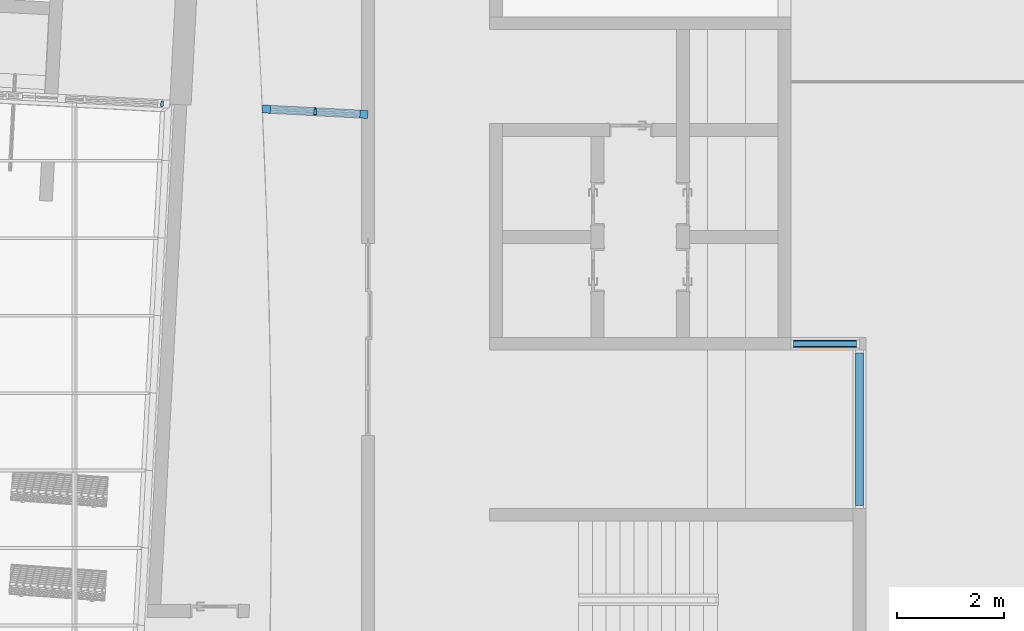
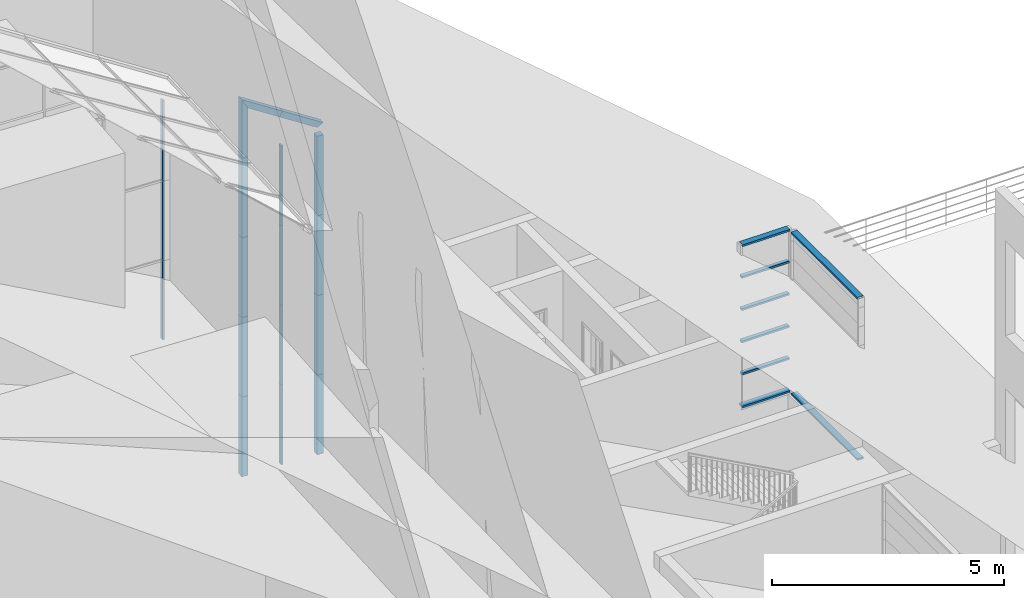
# One storey, part 22 of 82: 26 members, 4 elements without a shape of their own.
"""IFC2X3 building model written with IfcOpenShell, lengths in millimetres."""

from ifc_helpers import new_model, entity, si_unit, converted_unit, derived_unit, direction, frame, frame_2d, origin, origin_2d_with_axis, place, context, subcontext, project, spatial, rectangle, extrude, clip, halfspace, source, transform, mapped, material, type_object, type_shapes, element, aggregate, save


model = new_model("IFC2X3")

# Units and contexts
model_context = context("Model", 3, precision=0.01, world=origin(), true_north=direction((6.12303176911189e-17, 1.0)))
body_context = subcontext(model_context, "Body", "Model", "MODEL_VIEW")
ifc_project = project(units=[si_unit("LENGTHUNIT", "METRE", prefix="MILLI"), si_unit("AREAUNIT", "SQUARE_METRE"), si_unit("VOLUMEUNIT", "CUBIC_METRE"), converted_unit("PLANEANGLEUNIT", "DEGREE", entity("IfcRatioMeasure", 0.0174532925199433), si_unit("PLANEANGLEUNIT", "RADIAN"), dimensions=[0, 0, 0, 0, 0, 0, 0]), si_unit("MASSUNIT", "GRAM", prefix="KILO"), derived_unit("MASSDENSITYUNIT", [(si_unit("MASSUNIT", "GRAM", prefix="KILO"), 1), (si_unit("LENGTHUNIT", "METRE"), -3)]), si_unit("TIMEUNIT", "SECOND"), si_unit("FREQUENCYUNIT", "HERTZ"), si_unit("THERMODYNAMICTEMPERATUREUNIT", "DEGREE_CELSIUS"), derived_unit("THERMALTRANSMITTANCEUNIT", [(si_unit("MASSUNIT", "GRAM", prefix="KILO"), 1), (si_unit("THERMODYNAMICTEMPERATUREUNIT", "KELVIN"), -1), (si_unit("TIMEUNIT", "SECOND"), -3)]), derived_unit("VOLUMETRICFLOWRATEUNIT", [(si_unit("LENGTHUNIT", "METRE"), 3), (si_unit("TIMEUNIT", "SECOND"), -1)]), si_unit("ELECTRICCURRENTUNIT", "AMPERE"), si_unit("ELECTRICVOLTAGEUNIT", "VOLT"), si_unit("POWERUNIT", "WATT"), si_unit("FORCEUNIT", "NEWTON", prefix="KILO"), si_unit("ILLUMINANCEUNIT", "LUX"), si_unit("LUMINOUSFLUXUNIT", "LUMEN"), si_unit("LUMINOUSINTENSITYUNIT", "CANDELA"), derived_unit("USERDEFINED", [(si_unit("MASSUNIT", "GRAM", prefix="KILO"), -1), (si_unit("LENGTHUNIT", "METRE"), -2), (si_unit("TIMEUNIT", "SECOND"), 3), (si_unit("LUMINOUSFLUXUNIT", "LUMEN"), 1)]), derived_unit("LINEARVELOCITYUNIT", [(si_unit("LENGTHUNIT", "METRE"), 1), (si_unit("TIMEUNIT", "SECOND"), -1)]), si_unit("PRESSUREUNIT", "PASCAL"), derived_unit("USERDEFINED", [(si_unit("LENGTHUNIT", "METRE"), -2), (si_unit("MASSUNIT", "GRAM", prefix="KILO"), 1), (si_unit("TIMEUNIT", "SECOND"), -2)])], contexts=[model_context])

# Site, building, storey
site_placement = place(None, origin())
site = spatial("IfcSite", under=ifc_project, at=site_placement, Name="表面", CompositionType="ELEMENT")
building_placement = place(site_placement, origin())
building = spatial("IfcBuilding", under=site, at=building_placement, CompositionType="ELEMENT")
storey_placement = place(building_placement, origin())
storey = spatial("IfcBuildingStorey", under=building, at=storey_placement, Name="1F", CompositionType="ELEMENT", Elevation=0.0)

# Curtain wall, members
curtain_wall_type_1 = type_object("IfcCurtainWallType", Name="幕墙系统:1450 x 2100mm", PredefinedType="NOTDEFINED")
curtain_wall_1_placement = place(storey_placement, origin())
curtain_wall_1 = element("IfcCurtainWall", 1, at=curtain_wall_1_placement, inside=storey, type_object=curtain_wall_type_1, Name="幕墙系统:1450 x 2100mm", ObjectType="幕墙系统:1450 x 2100mm")
ifc_material_1 = material(Name="金属 - 铝")
member_type_1 = type_object("IfcMemberType", Name="50 x 100mm", PredefinedType="MEMBER")
shared_shape_1 = source(origin(), body_context, "Body", "SweptSolid", [
    extrude(rectangle(XDim=100.0, YDim=50.0, at=origin_2d_with_axis()), frame((0.0, 0.0, -2100.0), z_axis=(0.0, 0.0, 1.0), x_axis=(0.0, -1.0, 0.0)), (0.0, 0.0, 1.0), 2100.0),
])
type_shapes(member_type_1, [shared_shape_1])
member_1_placement = place(storey_placement, frame((-15417.0098474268, 2027.38819614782, 2100.0), z_axis=(0.0, 0.0, 1.0), x_axis=(0.998629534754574, -0.0523359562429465, 0.0)))
member_1 = element("IfcMember", 2, at=member_1_placement, type_object=member_type_1, material=ifc_material_1, Name="矩形竖梃:50 x 100mm", ObjectType="50 x 100mm", context=body_context, shape_type="MappedRepresentation", body=[
    mapped(shared_shape_1, transform((0.0, 0.0, 0.0), scale=1.0)),
])
member_type_2 = type_object("IfcMemberType", Name="50 x 100mm", PredefinedType="MEMBER")
shared_shape_2 = source(origin(), body_context, "Body", "SweptSolid", [
    extrude(rectangle(XDim=100.0, YDim=50.0, at=origin_2d_with_axis()), frame((0.0, 0.0, -2100.0), z_axis=(0.0, 0.0, 1.0), x_axis=(0.0, -1.0, 0.0)), (0.0, 0.0, 1.0), 2100.0),
])
type_shapes(member_type_2, [shared_shape_2])
member_2_placement = place(storey_placement, frame((-15417.0098474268, 2027.38819614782, 4200.0), z_axis=(0.0, 0.0, 1.0), x_axis=(0.998629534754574, -0.0523359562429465, 0.0)))
member_2 = element("IfcMember", 3, at=member_2_placement, type_object=member_type_2, material=ifc_material_1, Name="矩形竖梃:50 x 100mm", ObjectType="50 x 100mm", context=body_context, shape_type="MappedRepresentation", body=[
    mapped(shared_shape_2, transform((0.0, 0.0, 0.0), scale=1.0)),
])
placement_1 = place(building_placement, frame((0.0, 0.0, 3000.0)))
member_3_placement = place(placement_1, frame((-15417.0098474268, 2027.38819614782, 3300.0), z_axis=(0.0, 0.0, 1.0), x_axis=(0.998629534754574, -0.0523359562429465, 0.0)))
member_3 = element("IfcMember", 4, at=member_3_placement, type_object=member_type_2, material=ifc_material_1, Name="矩形竖梃:50 x 100mm", ObjectType="50 x 100mm", context=body_context, shape_type="MappedRepresentation", body=[
    mapped(shared_shape_2, transform((0.0, 0.0, 0.0), scale=1.0)),
])
placement_2 = place(building_placement, frame((0.0, 0.0, 6000.0)))
member_4_placement = place(placement_2, frame((-15417.0098474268, 2027.38819614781, 2400.0), z_axis=(0.0, 0.0, 1.0), x_axis=(0.998629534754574, -0.0523359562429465, 0.0)))
member_4 = element("IfcMember", 5, at=member_4_placement, type_object=member_type_2, material=ifc_material_1, Name="矩形竖梃:50 x 100mm", ObjectType="50 x 100mm", context=body_context, shape_type="MappedRepresentation", body=[
    mapped(shared_shape_2, transform((0.0, 0.0, 0.0), scale=1.0)),
])

curtain_wall_2_placement = place(storey_placement, origin())
curtain_wall_2 = element("IfcCurtainWall", 6, at=curtain_wall_2_placement, inside=storey, type_object=curtain_wall_type_1, Name="幕墙系统:1450 x 2100mm", ObjectType="幕墙系统:1450 x 2100mm")
member_5_placement = place(placement_1, frame((-18282.1979715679, 2177.54634296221, 3300.0), z_axis=(0.0, 0.0, 1.0), x_axis=(0.998629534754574, -0.0523359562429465, 0.0)))
member_5 = element("IfcMember", 7, at=member_5_placement, type_object=member_type_2, material=ifc_material_1, Name="矩形竖梃:50 x 100mm", ObjectType="50 x 100mm", context=body_context, shape_type="MappedRepresentation", body=[
    mapped(shared_shape_2, transform((0.0, 0.0, 0.0), scale=1.0)),
])
member_6_placement = place(placement_2, frame((-18282.1979715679, 2177.5463429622, 2400.0), z_axis=(0.0, 0.0, 1.0), x_axis=(0.998629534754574, -0.0523359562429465, 0.0)))
member_6 = element("IfcMember", 8, at=member_6_placement, type_object=member_type_2, material=ifc_material_1, Name="矩形竖梃:50 x 100mm", ObjectType="50 x 100mm", context=body_context, shape_type="MappedRepresentation", body=[
    mapped(shared_shape_2, transform((0.0, 0.0, 0.0), scale=1.0)),
])
member_7_placement = place(placement_2, frame((-18282.1979715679, 2177.5463429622, 4500.0), z_axis=(0.0, 0.0, 1.0), x_axis=(0.998629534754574, -0.0523359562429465, 0.0)))
member_7 = element("IfcMember", 9, at=member_7_placement, type_object=member_type_2, material=ifc_material_1, Name="矩形竖梃:50 x 100mm", ObjectType="50 x 100mm", context=body_context, shape_type="MappedRepresentation", body=[
    mapped(shared_shape_2, transform((0.0, 0.0, 0.0), scale=1.0)),
])
aggregate(curtain_wall_2, [member_5, member_6, member_7])

# Member
ifc_material_2 = material(Name="木质 - 木材")
member_type_3 = type_object("IfcMemberType", Name="200 x 150mm", PredefinedType="MEMBER")
shared_shape_3 = source(origin(), body_context, "Body", "Clipping", [
    clip(extrude(rectangle(XDim=150.0, YDim=150.0, at=frame_2d((-7.105427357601e-15, 0.0), x_axis=(1.0, 0.0))), frame((-75.0, 0.0, -1164.71463187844), z_axis=(0.0, 0.0, 1.0), x_axis=(0.0, -1.0, 0.0)), (0.0, 0.0, 1.0), 1164.71463187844), halfspace(frame((0.0, -304.8, 0.0), z_axis=(-0.874470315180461, 0.0, 0.485079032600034), x_axis=(-0.485079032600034, 0.0, -0.874470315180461)), False)),
])
type_shapes(member_type_3, [shared_shape_3])
placement_3 = place(building_placement, frame((0.0, 0.0, 9000.0)))
member_8_placement = place(placement_3, frame((-16403.7697822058, 2079.10209301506, 946.409923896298), z_axis=(-0.847211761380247, 0.0444004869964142, 0.529396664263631), x_axis=(0.528671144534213, -0.0277064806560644, 0.848374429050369)))
member_8 = element("IfcMember", 10, at=member_8_placement, type_object=member_type_3, material=ifc_material_2, Name="矩形竖梃:200 x 150mm", ObjectType="200 x 150mm", context=body_context, shape_type="MappedRepresentation", body=[
    mapped(shared_shape_3, transform((0.0, 0.0, 0.0), scale=1.0)),
])

member_type_4 = type_object("IfcMemberType", Name="200 x 150mm", PredefinedType="MEMBER")
shared_shape_4 = source(origin(), body_context, "Body", "SweptSolid", [
    extrude(rectangle(XDim=150.0, YDim=150.0, at=origin_2d_with_axis()), frame((-75.0, 0.0, -2100.0), z_axis=(0.0, 0.0, 1.0), x_axis=(0.0, -1.0, 0.0)), (0.0, 0.0, 1.0), 2100.0),
])
type_shapes(member_type_4, [shared_shape_4])
member_9_placement = place(storey_placement, frame((-16403.7697822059, 2079.10209301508, 0.0), z_axis=(0.0, 0.0, -1.0), x_axis=(-0.998629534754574, 0.0523359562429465, 0.0)))
member_9 = element("IfcMember", 11, at=member_9_placement, type_object=member_type_4, material=ifc_material_2, Name="矩形竖梃:200 x 150mm", ObjectType="200 x 150mm", context=body_context, shape_type="MappedRepresentation", body=[
    mapped(shared_shape_4, transform((0.0, 0.0, 0.0), scale=1.0)),
])

member_type_5 = type_object("IfcMemberType", Name="200 x 150mm", PredefinedType="MEMBER")
shared_shape_5 = source(origin(), body_context, "Body", "Clipping", [
    clip(extrude(rectangle(XDim=150.0, YDim=150.0, at=frame_2d((0.0, -6.3948846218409e-14), x_axis=(1.0, 0.0))), frame((-75.0, 0.0, -1164.71463187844), z_axis=(0.0, 0.0, 1.0), x_axis=(0.0, -1.0, 0.0)), (0.0, 0.0, 1.0), 1164.71463187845), halfspace(frame((0.0, -304.8, -1164.71463187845), z_axis=(-0.485079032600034, 0.0, -0.874470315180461), x_axis=(-0.874470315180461, 0.0, 0.485079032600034)), False)),
])
type_shapes(member_type_5, [shared_shape_5])
member_10_placement = place(placement_2, frame((-15417.0098474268, 2027.38819614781, 3329.81388296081), z_axis=(-0.847211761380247, 0.0444004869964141, 0.529396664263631), x_axis=(0.528671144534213, -0.0277064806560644, 0.848374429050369)))
member_10 = element("IfcMember", 12, at=member_10_placement, type_object=member_type_5, material=ifc_material_2, Name="矩形竖梃:200 x 150mm", ObjectType="200 x 150mm", context=body_context, shape_type="MappedRepresentation", body=[
    mapped(shared_shape_5, transform((0.0, 0.0, 0.0), scale=1.0)),
])

member_type_6 = type_object("IfcMemberType", Name="200 x 150mm", PredefinedType="MEMBER")
shared_shape_6 = source(origin(), body_context, "Body", "SweptSolid", [
    extrude(rectangle(XDim=150.0, YDim=150.0, at=origin_2d_with_axis()), frame((-75.0, 0.0, -2100.0), z_axis=(0.0, 0.0, 1.0), x_axis=(0.0, -1.0, 0.0)), (0.0, 0.0, 1.0), 2100.0),
])
type_shapes(member_type_6, [shared_shape_6])
member_11_placement = place(storey_placement, frame((-16403.7697822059, 2079.10209301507, 2100.0), z_axis=(0.0, 0.0, -1.0), x_axis=(-0.998629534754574, 0.0523359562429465, 0.0)))
member_11 = element("IfcMember", 13, at=member_11_placement, type_object=member_type_6, material=ifc_material_2, Name="矩形竖梃:200 x 150mm", ObjectType="200 x 150mm", context=body_context, shape_type="MappedRepresentation", body=[
    mapped(shared_shape_6, transform((0.0, 0.0, 0.0), scale=1.0)),
])

member_12_placement = place(placement_1, frame((-16403.7697822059, 2079.10209301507, 1200.0), z_axis=(0.0, 0.0, -1.0), x_axis=(-0.998629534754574, 0.0523359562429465, 0.0)))
member_12 = element("IfcMember", 14, at=member_12_placement, type_object=member_type_6, material=ifc_material_2, Name="矩形竖梃:200 x 150mm", ObjectType="200 x 150mm", context=body_context, shape_type="MappedRepresentation", body=[
    mapped(shared_shape_6, transform((0.0, 0.0, 0.0), scale=1.0)),
])

member_13_placement = place(placement_2, frame((-16403.7697822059, 2079.10209301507, 300.0), z_axis=(0.0, 0.0, -1.0), x_axis=(-0.998629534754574, 0.0523359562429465, 0.0)))
member_13 = element("IfcMember", 15, at=member_13_placement, type_object=member_type_6, material=ifc_material_2, Name="矩形竖梃:200 x 150mm", ObjectType="200 x 150mm", context=body_context, shape_type="MappedRepresentation", body=[
    mapped(shared_shape_6, transform((0.0, 0.0, 0.0), scale=1.0)),
])

member_type_7 = type_object("IfcMemberType", Name="200 x 150mm", PredefinedType="MEMBER")
shared_shape_7 = source(origin(), body_context, "Body", "Clipping", [
    clip(extrude(rectangle(XDim=150.0, YDim=150.0, at=origin_2d_with_axis()), frame((-75.0, 0.0, -1546.40992389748), z_axis=(0.0, 0.0, 1.0), x_axis=(0.0, -1.0, 0.0)), (0.0, 0.0, 1.0), 1546.40992389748), halfspace(frame((0.0, -304.8, -1546.40992389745), z_axis=(-0.874470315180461, 0.0, -0.485079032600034), x_axis=(-0.485079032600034, 0.0, 0.874470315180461)), False)),
])
type_shapes(member_type_7, [shared_shape_7])
member_14_placement = place(placement_2, frame((-16403.7697822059, 2079.10209301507, 2400.0), z_axis=(0.0, 0.0, -1.0), x_axis=(-0.998629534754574, 0.0523359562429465, 0.0)))
member_14 = element("IfcMember", 16, at=member_14_placement, type_object=member_type_7, material=ifc_material_2, Name="矩形竖梃:200 x 150mm", ObjectType="200 x 150mm", context=body_context, shape_type="MappedRepresentation", body=[
    mapped(shared_shape_7, transform((0.0, 0.0, 0.0), scale=1.0)),
])

member_type_8 = type_object("IfcMemberType", Name="200 x 150mm", PredefinedType="MEMBER")
shared_shape_8 = source(origin(), body_context, "Body", "SweptSolid", [
    extrude(rectangle(XDim=150.0, YDim=150.0, at=origin_2d_with_axis()), frame((-75.0, 0.0, -2100.0), z_axis=(0.0, 0.0, 1.0), x_axis=(0.0, -1.0, 0.0)), (0.0, 0.0, 1.0), 2100.0),
])
type_shapes(member_type_8, [shared_shape_8])
member_15_placement = place(storey_placement, frame((-14430.2499126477, 1975.67429928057, 2100.0), z_axis=(0.0, 0.0, 1.0), x_axis=(0.998629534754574, -0.0523359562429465, 0.0)))
member_15 = element("IfcMember", 17, at=member_15_placement, type_object=member_type_8, material=ifc_material_2, Name="矩形竖梃:200 x 150mm", ObjectType="200 x 150mm", context=body_context, shape_type="MappedRepresentation", body=[
    mapped(shared_shape_8, transform((0.0, 0.0, 0.0), scale=1.0)),
])

member_type_9 = type_object("IfcMemberType", Name="200 x 150mm", PredefinedType="MEMBER")
shared_shape_9 = source(origin(), body_context, "Body", "SweptSolid", [
    extrude(rectangle(XDim=150.0, YDim=150.0, at=origin_2d_with_axis()), frame((-75.0, 0.0, -2100.0), z_axis=(0.0, 0.0, 1.0), x_axis=(0.0, -1.0, 0.0)), (0.0, 0.0, 1.0), 2100.0),
])
type_shapes(member_type_9, [shared_shape_9])
member_16_placement = place(storey_placement, frame((-14430.2499126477, 1975.67429928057, 4200.0), z_axis=(0.0, 0.0, 1.0), x_axis=(0.998629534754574, -0.0523359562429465, 0.0)))
member_16 = element("IfcMember", 18, at=member_16_placement, type_object=member_type_9, material=ifc_material_2, Name="矩形竖梃:200 x 150mm", ObjectType="200 x 150mm", context=body_context, shape_type="MappedRepresentation", body=[
    mapped(shared_shape_9, transform((0.0, 0.0, 0.0), scale=1.0)),
])

member_17_placement = place(placement_1, frame((-14430.2499126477, 1975.67429928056, 3300.0), z_axis=(0.0, 0.0, 1.0), x_axis=(0.998629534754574, -0.0523359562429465, 0.0)))
member_17 = element("IfcMember", 19, at=member_17_placement, type_object=member_type_9, material=ifc_material_2, Name="矩形竖梃:200 x 150mm", ObjectType="200 x 150mm", context=body_context, shape_type="MappedRepresentation", body=[
    mapped(shared_shape_9, transform((0.0, 0.0, 0.0), scale=1.0)),
])

member_18_placement = place(placement_2, frame((-14430.2499126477, 1975.67429928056, 2400.0), z_axis=(0.0, 0.0, 1.0), x_axis=(0.998629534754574, -0.0523359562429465, 0.0)))
member_18 = element("IfcMember", 20, at=member_18_placement, type_object=member_type_9, material=ifc_material_2, Name="矩形竖梃:200 x 150mm", ObjectType="200 x 150mm", context=body_context, shape_type="MappedRepresentation", body=[
    mapped(shared_shape_9, transform((0.0, 0.0, 0.0), scale=1.0)),
])

aggregate(curtain_wall_1, [member_8, member_9, member_10, member_11, member_12, member_13, member_14, member_15, member_16, member_17, member_18, member_1, member_2, member_3, member_4])

# Curtain wall, members
curtain_wall_type_2 = type_object("IfcCurtainWallType", Name="幕墙:幕墙 1", PredefinedType="NOTDEFINED")
curtain_wall_3_placement = place(storey_placement, origin())
curtain_wall_3 = element("IfcCurtainWall", 21, at=curtain_wall_3_placement, inside=storey, type_object=curtain_wall_type_2, Name="幕墙:幕墙 1", ObjectType="幕墙:幕墙 1")
member_type_10 = type_object("IfcMemberType", Name="50 x 150mm", PredefinedType="MEMBER")
shared_shape_10 = source(origin(), body_context, "Body", "SweptSolid", [
    extrude(rectangle(XDim=150.0, YDim=50.0, at=origin_2d_with_axis()), frame((-25.0, 0.0, -2860.0), z_axis=(0.0, 0.0, 1.0), x_axis=(0.0, -1.0, 0.0)), (0.0, 0.0, 1.0), 2860.0),
])
type_shapes(member_type_10, [shared_shape_10])
member_19_placement = place(storey_placement, frame((-5230.24991264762, -5346.868426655, 5300.0), z_axis=(0.0, -1.0, 0.0), x_axis=(0.0, 0.0, 1.0)))
member_19 = element("IfcMember", 22, at=member_19_placement, type_object=member_type_10, material=ifc_material_1, Name="矩形竖梃:50 x 150mm", ObjectType="50 x 150mm", context=body_context, shape_type="MappedRepresentation", body=[
    mapped(shared_shape_10, transform((0.0, 0.0, 0.0), scale=1.0)),
])
member_type_11 = type_object("IfcMemberType", Name="50 x 150mm", PredefinedType="MEMBER")
shared_shape_11 = source(origin(), body_context, "Body", "SweptSolid", [
    extrude(rectangle(XDim=150.0, YDim=50.0, at=origin_2d_with_axis()), frame((-25.0, 0.0, -2860.0), z_axis=(0.0, 0.0, 1.0), x_axis=(0.0, -1.0, 0.0)), (0.0, 0.0, 1.0), 2860.0),
])
type_shapes(member_type_11, [shared_shape_11])
member_20_placement = place(storey_placement, frame((-5230.24991264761, -2486.868426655, 1000.0), z_axis=(0.0, 1.0, 0.0), x_axis=(0.0, 0.0, -1.0)))
member_20 = element("IfcMember", 23, at=member_20_placement, type_object=member_type_11, material=ifc_material_1, Name="矩形竖梃:50 x 150mm", ObjectType="50 x 150mm", context=body_context, shape_type="MappedRepresentation", body=[
    mapped(shared_shape_11, transform((0.0, 0.0, 0.0), scale=1.0)),
])
aggregate(curtain_wall_3, [member_19, member_20])

curtain_wall_type_3 = type_object("IfcCurtainWallType", Name="幕墙:幕墙 5", PredefinedType="NOTDEFINED")
curtain_wall_4_placement = place(storey_placement, origin())
curtain_wall_4 = element("IfcCurtainWall", 24, at=curtain_wall_4_placement, inside=storey, type_object=curtain_wall_type_3, Name="幕墙:幕墙 5", ObjectType="幕墙:幕墙 5")
member_type_12 = type_object("IfcMemberType", Name="50 x 150mm", PredefinedType="MEMBER")
shared_shape_12 = source(origin(), body_context, "Body", "SweptSolid", [
    extrude(rectangle(XDim=150.0, YDim=50.0, at=origin_2d_with_axis()), frame((-25.0, 0.0, -1180.0), z_axis=(0.0, 0.0, 1.0), x_axis=(0.0, -1.0, 0.0)), (0.0, 0.0, 1.0), 1180.00000000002),
])
type_shapes(member_type_12, [shared_shape_12])
member_21_placement = place(storey_placement, frame((-5280.24991264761, -2316.868426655, 5300.0), z_axis=(1.0, 0.0, 0.0), x_axis=(0.0, 0.0, 1.0)))
member_21 = element("IfcMember", 25, at=member_21_placement, type_object=member_type_12, material=ifc_material_1, Name="矩形竖梃:50 x 150mm", ObjectType="50 x 150mm", context=body_context, shape_type="MappedRepresentation", body=[
    mapped(shared_shape_12, transform((0.0, 0.0, 0.0), scale=1.0)),
])
member_type_13 = type_object("IfcMemberType", Name="50 x 150mm", PredefinedType="MEMBER")
shared_shape_13 = source(origin(), body_context, "Body", "SweptSolid", [
    extrude(rectangle(XDim=150.0, YDim=50.0, at=origin_2d_with_axis()), frame((-25.0, 0.0, -1180.0), z_axis=(0.0, 0.0, 1.0), x_axis=(0.0, -1.0, 0.0)), (0.0, 0.0, 1.0), 1180.00000000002),
])
type_shapes(member_type_13, [shared_shape_13])
member_22_placement = place(storey_placement, frame((-6460.24991264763, -2316.86842665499, 1000.0), z_axis=(-1.0, 0.0, 0.0), x_axis=(0.0, 0.0, -1.0)))
member_22 = element("IfcMember", 26, at=member_22_placement, type_object=member_type_13, material=ifc_material_1, Name="矩形竖梃:50 x 150mm", ObjectType="50 x 150mm", context=body_context, shape_type="MappedRepresentation", body=[
    mapped(shared_shape_13, transform((0.0, 0.0, 0.0), scale=1.0)),
])
member_type_14 = type_object("IfcMemberType", Name="50 x 100mm", PredefinedType="MEMBER")
shared_shape_14 = source(origin(), body_context, "Body", "SweptSolid", [
    extrude(rectangle(XDim=100.0, YDim=50.0, at=origin_2d_with_axis()), frame((0.0, 0.0, -1180.0), z_axis=(0.0, 0.0, 1.0), x_axis=(0.0, -1.0, 0.0)), (0.0, 0.0, 1.0), 1180.00000000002),
])
type_shapes(member_type_14, [shared_shape_14])
member_23_placement = place(storey_placement, frame((-5280.24991264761, -2316.868426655, 1875.0), z_axis=(1.0, 0.0, 0.0), x_axis=(0.0, 0.0, 1.0)))
member_23 = element("IfcMember", 27, at=member_23_placement, type_object=member_type_14, material=ifc_material_1, Name="矩形竖梃:50 x 100mm", ObjectType="50 x 100mm", context=body_context, shape_type="MappedRepresentation", body=[
    mapped(shared_shape_14, transform((0.0, 0.0, 0.0), scale=1.0)),
])
member_24_placement = place(storey_placement, frame((-5280.24991264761, -2316.868426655, 2725.0), z_axis=(1.0, 0.0, 0.0), x_axis=(0.0, 0.0, 1.0)))
member_24 = element("IfcMember", 28, at=member_24_placement, type_object=member_type_14, material=ifc_material_1, Name="矩形竖梃:50 x 100mm", ObjectType="50 x 100mm", context=body_context, shape_type="MappedRepresentation", body=[
    mapped(shared_shape_14, transform((0.0, 0.0, 0.0), scale=1.0)),
])
member_25_placement = place(storey_placement, frame((-5280.24991264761, -2316.868426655, 3575.0), z_axis=(1.0, 0.0, 0.0), x_axis=(0.0, 0.0, 1.0)))
member_25 = element("IfcMember", 29, at=member_25_placement, type_object=member_type_14, material=ifc_material_1, Name="矩形竖梃:50 x 100mm", ObjectType="50 x 100mm", context=body_context, shape_type="MappedRepresentation", body=[
    mapped(shared_shape_14, transform((0.0, 0.0, 0.0), scale=1.0)),
])
member_26_placement = place(storey_placement, frame((-5280.24991264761, -2316.868426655, 4425.0), z_axis=(1.0, 0.0, 0.0), x_axis=(0.0, 0.0, 1.0)))
member_26 = element("IfcMember", 30, at=member_26_placement, type_object=member_type_14, material=ifc_material_1, Name="矩形竖梃:50 x 100mm", ObjectType="50 x 100mm", context=body_context, shape_type="MappedRepresentation", body=[
    mapped(shared_shape_14, transform((0.0, 0.0, 0.0), scale=1.0)),
])
aggregate(curtain_wall_4, [member_21, member_22, member_23, member_24, member_25, member_26])

save(model, "model.ifc")
